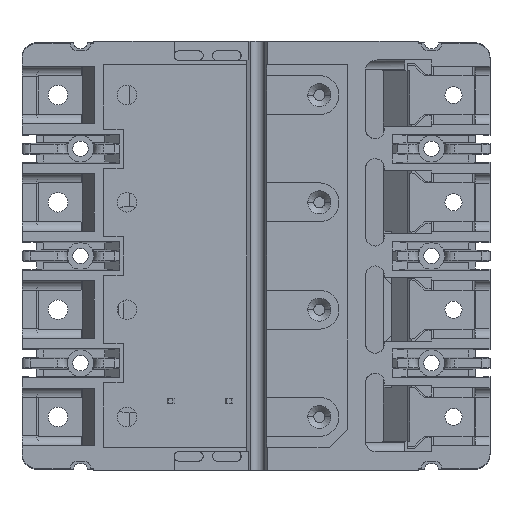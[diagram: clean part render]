
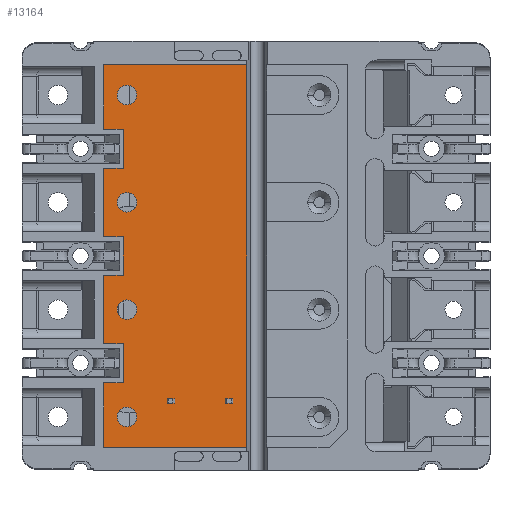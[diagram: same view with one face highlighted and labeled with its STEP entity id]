
A CAD part, front view. The second image highlights one B-rep face of the part: STEP entity #13164.
In plain terms, the highlighted planar face has unit normal (0, -1, 0) as drawn and (0, 1, 0) by its records, which use the part's own axes.
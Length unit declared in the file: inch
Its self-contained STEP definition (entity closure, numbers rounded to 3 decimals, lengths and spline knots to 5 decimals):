
#2928=CARTESIAN_POINT('',(1.345,2.127,-0.687));
#2929=DIRECTION('',(0.,-1.,0.));
#2930=DIRECTION('',(-1.,0.,0.));
#2931=AXIS2_PLACEMENT_3D('',#2928,#2929,#2930);
#2933=CARTESIAN_POINT('',(1.345,2.127,-0.687));
#2934=DIRECTION('',(0.,-1.,0.));
#2935=DIRECTION('',(1.,0.,0.));
#2936=AXIS2_PLACEMENT_3D('',#2933,#2934,#2935);
#2938=CARTESIAN_POINT('',(1.345,2.127,0.688));
#2939=DIRECTION('',(0.,-1.,0.));
#2940=DIRECTION('',(-1.,0.,0.));
#2941=AXIS2_PLACEMENT_3D('',#2938,#2939,#2940);
#2943=CARTESIAN_POINT('',(1.345,2.127,0.688));
#2944=DIRECTION('',(0.,-1.,0.));
#2945=DIRECTION('',(1.,0.,0.));
#2946=AXIS2_PLACEMENT_3D('',#2943,#2944,#2945);
#2948=CARTESIAN_POINT('',(1.345,2.127,2.063));
#2949=DIRECTION('',(0.,-1.,0.));
#2950=DIRECTION('',(-1.,0.,0.));
#2951=AXIS2_PLACEMENT_3D('',#2948,#2949,#2950);
#2953=CARTESIAN_POINT('',(1.345,2.127,2.063));
#2954=DIRECTION('',(0.,-1.,0.));
#2955=DIRECTION('',(1.,0.,0.));
#2956=AXIS2_PLACEMENT_3D('',#2953,#2954,#2955);
#2958=CARTESIAN_POINT('',(1.345,2.127,-2.062));
#2959=DIRECTION('',(0.,-1.,0.));
#2960=DIRECTION('',(-1.,0.,0.));
#2961=AXIS2_PLACEMENT_3D('',#2958,#2959,#2960);
#2963=CARTESIAN_POINT('',(1.345,2.127,-2.062));
#2964=DIRECTION('',(0.,-1.,0.));
#2965=DIRECTION('',(1.,0.,0.));
#2966=AXIS2_PLACEMENT_3D('',#2963,#2964,#2965);
#2968=DIRECTION('',(0.,0.,1.));
#2969=VECTOR('',#2968,4.907);
#2970=CARTESIAN_POINT('',(2.884,2.127,-2.453));
#2971=LINE('',#2970,#2969);
#2972=DIRECTION('',(1.,0.,0.));
#2973=VECTOR('',#2972,1.837);
#2974=CARTESIAN_POINT('',(1.047,2.127,2.454));
#2975=LINE('',#2974,#2973);
#2976=DIRECTION('',(0.,0.,1.));
#2977=VECTOR('',#2976,0.828);
#2978=CARTESIAN_POINT('',(1.047,2.127,1.626));
#2979=LINE('',#2978,#2977);
#2980=DIRECTION('',(-1.,0.,0.));
#2981=VECTOR('',#2980,0.25);
#2982=CARTESIAN_POINT('',(1.297,2.127,1.626));
#2983=LINE('',#2982,#2981);
#2984=DIRECTION('',(0.,0.,1.));
#2985=VECTOR('',#2984,0.501);
#2986=CARTESIAN_POINT('',(1.297,2.127,1.125));
#2987=LINE('',#2986,#2985);
#2988=DIRECTION('',(1.,0.,0.));
#2989=VECTOR('',#2988,0.25);
#2990=CARTESIAN_POINT('',(1.047,2.127,1.125));
#2991=LINE('',#2990,#2989);
#2992=DIRECTION('',(0.,0.,1.));
#2993=VECTOR('',#2992,0.875);
#2994=CARTESIAN_POINT('',(1.047,2.127,0.25));
#2995=LINE('',#2994,#2993);
#2996=DIRECTION('',(-1.,0.,0.));
#2997=VECTOR('',#2996,0.25);
#2998=CARTESIAN_POINT('',(1.297,2.127,0.25));
#2999=LINE('',#2998,#2997);
#3000=DIRECTION('',(0.,0.,1.));
#3001=VECTOR('',#3000,0.499);
#3002=CARTESIAN_POINT('',(1.297,2.127,-0.249));
#3003=LINE('',#3002,#3001);
#3004=DIRECTION('',(1.,0.,0.));
#3005=VECTOR('',#3004,0.25);
#3006=CARTESIAN_POINT('',(1.047,2.127,-0.249));
#3007=LINE('',#3006,#3005);
#3008=DIRECTION('',(0.,0.,1.));
#3009=VECTOR('',#3008,0.875);
#3010=CARTESIAN_POINT('',(1.047,2.127,-1.124));
#3011=LINE('',#3010,#3009);
#3012=DIRECTION('',(-1.,0.,0.));
#3013=VECTOR('',#3012,0.25);
#3014=CARTESIAN_POINT('',(1.297,2.127,-1.124));
#3015=LINE('',#3014,#3013);
#3016=DIRECTION('',(0.,0.,1.));
#3017=VECTOR('',#3016,0.501);
#3018=CARTESIAN_POINT('',(1.297,2.127,-1.625));
#3019=LINE('',#3018,#3017);
#3020=DIRECTION('',(1.,0.,0.));
#3021=VECTOR('',#3020,0.25);
#3022=CARTESIAN_POINT('',(1.047,2.127,-1.625));
#3023=LINE('',#3022,#3021);
#3024=DIRECTION('',(0.,0.,1.));
#3025=VECTOR('',#3024,0.828);
#3026=CARTESIAN_POINT('',(1.047,2.127,-2.453));
#3027=LINE('',#3026,#3025);
#3028=DIRECTION('',(-1.,0.,0.));
#3029=VECTOR('',#3028,1.837);
#3030=CARTESIAN_POINT('',(2.884,2.127,-2.453));
#3031=LINE('',#3030,#3029);
#8287=CARTESIAN_POINT('',(1.047,2.127,-2.453));
#8288=CARTESIAN_POINT('',(1.047,2.127,-1.625));
#8289=VERTEX_POINT('',#8287);
#8290=VERTEX_POINT('',#8288);
#8291=CARTESIAN_POINT('',(1.297,2.127,-1.625));
#8292=VERTEX_POINT('',#8291);
#8293=CARTESIAN_POINT('',(1.297,2.127,-1.124));
#8294=VERTEX_POINT('',#8293);
#8295=CARTESIAN_POINT('',(1.047,2.127,-1.124));
#8296=VERTEX_POINT('',#8295);
#8297=CARTESIAN_POINT('',(1.047,2.127,-0.249));
#8298=VERTEX_POINT('',#8297);
#8299=CARTESIAN_POINT('',(1.297,2.127,-0.249));
#8300=VERTEX_POINT('',#8299);
#8301=CARTESIAN_POINT('',(1.297,2.127,0.25));
#8302=VERTEX_POINT('',#8301);
#8303=CARTESIAN_POINT('',(1.047,2.127,0.25));
#8304=VERTEX_POINT('',#8303);
#8305=CARTESIAN_POINT('',(1.047,2.127,1.125));
#8306=VERTEX_POINT('',#8305);
#8307=CARTESIAN_POINT('',(1.297,2.127,1.125));
#8308=VERTEX_POINT('',#8307);
#8309=CARTESIAN_POINT('',(1.297,2.127,1.626));
#8310=VERTEX_POINT('',#8309);
#8311=CARTESIAN_POINT('',(1.047,2.127,1.626));
#8312=VERTEX_POINT('',#8311);
#8313=CARTESIAN_POINT('',(1.047,2.127,2.454));
#8314=VERTEX_POINT('',#8313);
#8349=CARTESIAN_POINT('',(1.22,2.127,-0.687));
#8350=CARTESIAN_POINT('',(1.47,2.127,-0.687));
#8351=VERTEX_POINT('',#8349);
#8352=VERTEX_POINT('',#8350);
#8353=CARTESIAN_POINT('',(1.22,2.127,0.688));
#8354=CARTESIAN_POINT('',(1.47,2.127,0.688));
#8355=VERTEX_POINT('',#8353);
#8356=VERTEX_POINT('',#8354);
#8357=CARTESIAN_POINT('',(1.22,2.127,2.063));
#8358=CARTESIAN_POINT('',(1.47,2.127,2.063));
#8359=VERTEX_POINT('',#8357);
#8360=VERTEX_POINT('',#8358);
#8361=CARTESIAN_POINT('',(1.22,2.127,-2.062));
#8362=CARTESIAN_POINT('',(1.47,2.127,-2.062));
#8363=VERTEX_POINT('',#8361);
#8364=VERTEX_POINT('',#8362);
#8381=CARTESIAN_POINT('',(2.884,2.127,-2.453));
#8382=CARTESIAN_POINT('',(2.884,2.127,2.454));
#8383=VERTEX_POINT('',#8381);
#8384=VERTEX_POINT('',#8382);
#13101=CARTESIAN_POINT('',(0.,2.127,-2.534));
#13102=DIRECTION('',(0.,1.,0.));
#13103=DIRECTION('',(-1.,0.,0.));
#13104=AXIS2_PLACEMENT_3D('',#13101,#13102,#13103);
#13105=PLANE('',#13104);
#13107=ORIENTED_EDGE('',*,*,#13106,.T.);
#13109=ORIENTED_EDGE('',*,*,#13108,.F.);
#13111=ORIENTED_EDGE('',*,*,#13110,.F.);
#13113=ORIENTED_EDGE('',*,*,#13112,.F.);
#13115=ORIENTED_EDGE('',*,*,#13114,.F.);
#13117=ORIENTED_EDGE('',*,*,#13116,.F.);
#13119=ORIENTED_EDGE('',*,*,#13118,.F.);
#13121=ORIENTED_EDGE('',*,*,#13120,.F.);
#13123=ORIENTED_EDGE('',*,*,#13122,.F.);
#13125=ORIENTED_EDGE('',*,*,#13124,.F.);
#13127=ORIENTED_EDGE('',*,*,#13126,.F.);
#13129=ORIENTED_EDGE('',*,*,#13128,.F.);
#13131=ORIENTED_EDGE('',*,*,#13130,.F.);
#13133=ORIENTED_EDGE('',*,*,#13132,.F.);
#13135=ORIENTED_EDGE('',*,*,#13134,.F.);
#13137=ORIENTED_EDGE('',*,*,#13136,.F.);
#13138=EDGE_LOOP('',(#13107,#13109,#13111,#13113,#13115,#13117,#13119,#13121,
#13123,#13125,#13127,#13129,#13131,#13133,#13135,#13137));
#13139=FACE_OUTER_BOUND('',#13138,.F.);
#13141=ORIENTED_EDGE('',*,*,#13140,.F.);
#13143=ORIENTED_EDGE('',*,*,#13142,.F.);
#13144=EDGE_LOOP('',(#13141,#13143));
#13145=FACE_BOUND('',#13144,.F.);
#13147=ORIENTED_EDGE('',*,*,#13146,.F.);
#13149=ORIENTED_EDGE('',*,*,#13148,.F.);
#13150=EDGE_LOOP('',(#13147,#13149));
#13151=FACE_BOUND('',#13150,.F.);
#13153=ORIENTED_EDGE('',*,*,#13152,.F.);
#13155=ORIENTED_EDGE('',*,*,#13154,.F.);
#13156=EDGE_LOOP('',(#13153,#13155));
#13157=FACE_BOUND('',#13156,.F.);
#13159=ORIENTED_EDGE('',*,*,#13158,.F.);
#13161=ORIENTED_EDGE('',*,*,#13160,.F.);
#13162=EDGE_LOOP('',(#13159,#13161));
#13163=FACE_BOUND('',#13162,.F.);
#13164=ADVANCED_FACE('',(#13139,#13145,#13151,#13157,#13163),#13105,.T.);
#2932=CIRCLE('',#2931,0.125);
#2937=CIRCLE('',#2936,0.125);
#2942=CIRCLE('',#2941,0.125);
#2947=CIRCLE('',#2946,0.125);
#2952=CIRCLE('',#2951,0.125);
#2957=CIRCLE('',#2956,0.125);
#2962=CIRCLE('',#2961,0.125);
#2967=CIRCLE('',#2966,0.125);
#13106=EDGE_CURVE('',#8383,#8384,#2971,.T.);
#13108=EDGE_CURVE('',#8314,#8384,#2975,.T.);
#13110=EDGE_CURVE('',#8312,#8314,#2979,.T.);
#13112=EDGE_CURVE('',#8310,#8312,#2983,.T.);
#13114=EDGE_CURVE('',#8308,#8310,#2987,.T.);
#13116=EDGE_CURVE('',#8306,#8308,#2991,.T.);
#13118=EDGE_CURVE('',#8304,#8306,#2995,.T.);
#13120=EDGE_CURVE('',#8302,#8304,#2999,.T.);
#13122=EDGE_CURVE('',#8300,#8302,#3003,.T.);
#13124=EDGE_CURVE('',#8298,#8300,#3007,.T.);
#13126=EDGE_CURVE('',#8296,#8298,#3011,.T.);
#13128=EDGE_CURVE('',#8294,#8296,#3015,.T.);
#13130=EDGE_CURVE('',#8292,#8294,#3019,.T.);
#13132=EDGE_CURVE('',#8290,#8292,#3023,.T.);
#13134=EDGE_CURVE('',#8289,#8290,#3027,.T.);
#13136=EDGE_CURVE('',#8383,#8289,#3031,.T.);
#13140=EDGE_CURVE('',#8351,#8352,#2932,.T.);
#13142=EDGE_CURVE('',#8352,#8351,#2937,.T.);
#13146=EDGE_CURVE('',#8355,#8356,#2942,.T.);
#13148=EDGE_CURVE('',#8356,#8355,#2947,.T.);
#13152=EDGE_CURVE('',#8359,#8360,#2952,.T.);
#13154=EDGE_CURVE('',#8360,#8359,#2957,.T.);
#13158=EDGE_CURVE('',#8363,#8364,#2962,.T.);
#13160=EDGE_CURVE('',#8364,#8363,#2967,.T.);
